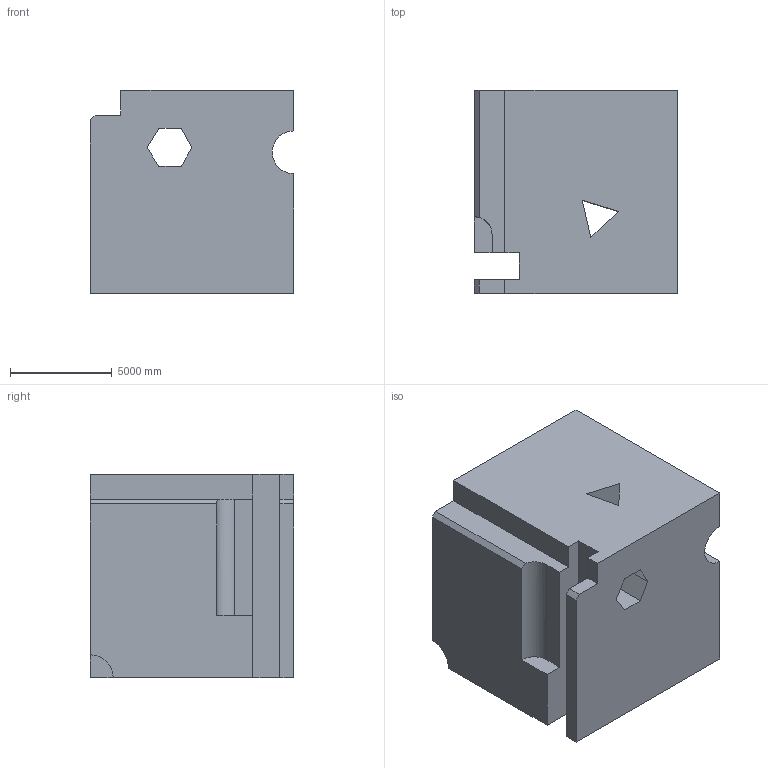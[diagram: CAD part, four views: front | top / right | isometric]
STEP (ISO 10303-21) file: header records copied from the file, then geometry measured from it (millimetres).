
FILE_DESCRIPTION (( 'STEP AP203' ), '1' );
FILE_NAME ('854.STEP', '2022-07-29T13:44:11', ( 'user' ), ( '' ), 'SwSTEP 2.0', 'SolidWorks 2021', '' );
FILE_SCHEMA (( 'CONFIG_CONTROL_DESIGN' ));
Length unit declared in the file: centimetre
Products named in the file (1): 854
Bounding box: 10000 x 10000 x 10000 mm (x, y, z)
Volume: 877117523180.6 mm3; surface area: 748547416 mm2
Topology: 1 solids, 1 shells, 36 faces, 102 edges, 68 vertices
Faces by surface type: plane 31, cylinder 5
Entity records: 1241 total; most frequent: CARTESIAN_POINT 210, ORIENTED_EDGE 204, DIRECTION 185, EDGE_CURVE 102, VECTOR 91, LINE 91, VERTEX_POINT 68, AXIS2_PLACEMENT_3D 47
